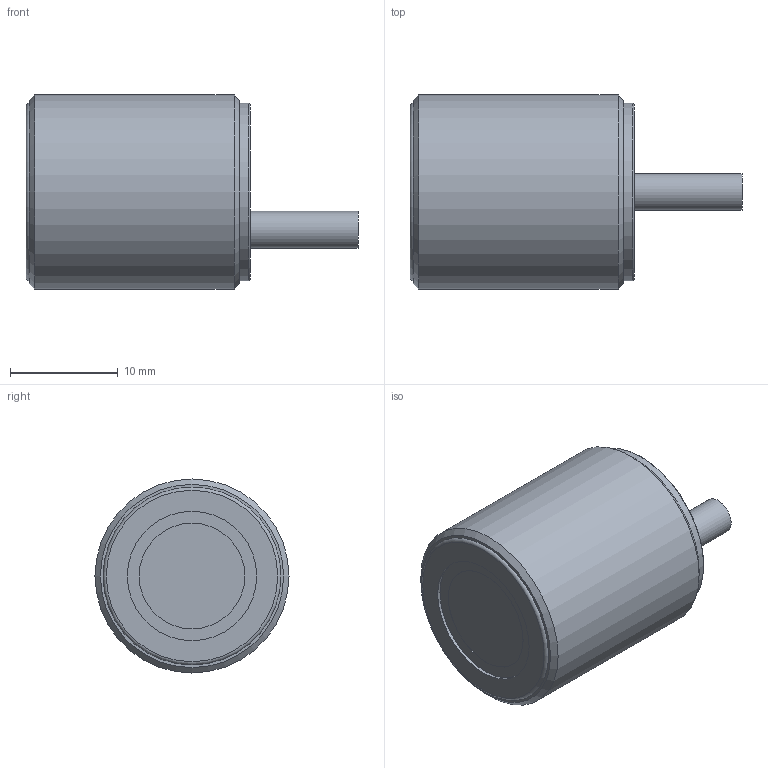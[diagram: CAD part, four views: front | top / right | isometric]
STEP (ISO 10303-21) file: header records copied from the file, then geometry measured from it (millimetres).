
FILE_DESCRIPTION((''),'2;1');
FILE_NAME('J:\Projekte\Kunststoff-Blechteile\Zeichnungen\Bibliothek Inventor\3D Solids\dbk+4\STP\dbk+4-Sender_M18_KX.stp','2010-01-28T13:48:58',('Oliver Liedtke'),(''),'Autodesk Inventor 2009','Autodesk Inventor 2009','');
FILE_SCHEMA(('AUTOMOTIVE_DESIGN { 1 0 10303 214 1 1 1 1 }'));
Length unit declared in the file: millimetre
Products named in the file (1): dbk+4-Sender_M18_KX
Bounding box: 30.8 x 18 x 18 mm (x, y, z)
Volume: 5260 mm3; surface area: 1789.1 mm2
Topology: 1 solids, 1 shells, 21 faces, 36 edges, 23 vertices
Faces by surface type: plane 12, cylinder 5, torus 2, cone 2
Full cylindrical faces by diameter (mm): 3.4 x1, 9.8 x1, 12 x1, 16.5 x1, 18 x1
Entity records: 534 total; most frequent: DIRECTION 86, CARTESIAN_POINT 72, ORIENTED_EDGE 54, AXIS2_PLACEMENT_3D 37, EDGE_LOOP 36, EDGE_CURVE 27, VERTEX_POINT 23, FACE_OUTER_BOUND 21
